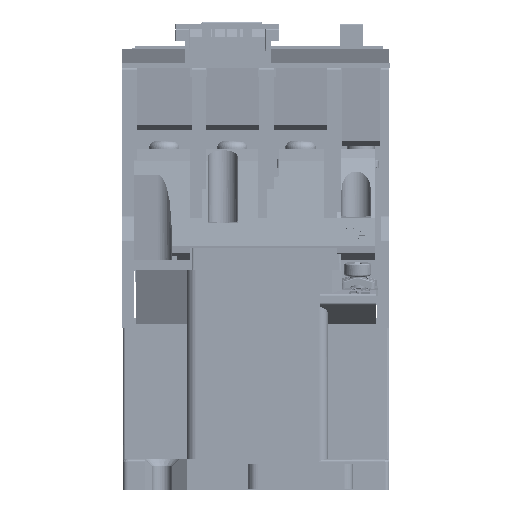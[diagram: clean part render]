
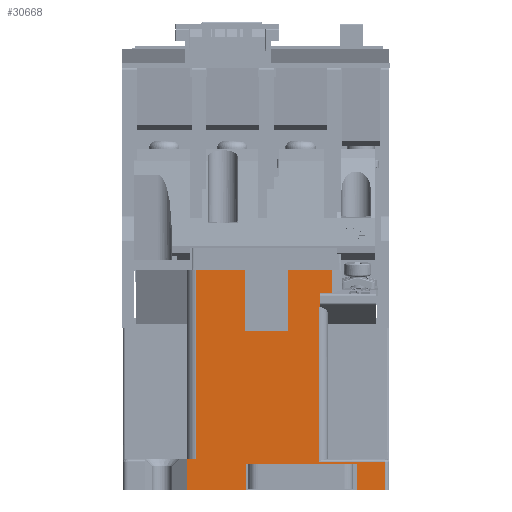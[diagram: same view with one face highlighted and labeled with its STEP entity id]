
A CAD part, front view. The second image highlights one B-rep face of the part: STEP entity #30668.
In plain terms, the highlighted planar face has unit normal (0, -1, 0).
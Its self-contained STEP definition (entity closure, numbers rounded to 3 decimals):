
#264=DIRECTION('',(1.,0.,0.));
#265=VECTOR('',#264,5.8);
#266=CARTESIAN_POINT('',(21.4,-38.95,0.));
#267=LINE('',#266,#265);
#322=DIRECTION('',(1.,0.,0.));
#323=VECTOR('',#322,12.5);
#324=CARTESIAN_POINT('',(-14.7,-38.95,0.));
#325=LINE('',#324,#323);
#4087=DIRECTION('',(-1.,0.,0.));
#4088=VECTOR('',#4087,14.);
#4089=CARTESIAN_POINT('',(27.2,-38.95,6.));
#4090=LINE('',#4089,#4088);
#4100=DIRECTION('',(0.,0.,-1.));
#4101=VECTOR('',#4100,40.1);
#4102=CARTESIAN_POINT('',(-12.7,-38.95,46.6));
#4103=LINE('',#4102,#4101);
#4104=DIRECTION('',(0.,0.,-1.));
#4105=VECTOR('',#4104,13.);
#4106=CARTESIAN_POINT('',(-2.3,-38.95,46.6));
#4107=LINE('',#4106,#4105);
#4108=DIRECTION('',(1.,0.,0.));
#4109=VECTOR('',#4108,9.);
#4110=CARTESIAN_POINT('',(-2.3,-38.95,33.6));
#4111=LINE('',#4110,#4109);
#4112=DIRECTION('',(0.,0.,-1.));
#4113=VECTOR('',#4112,13.);
#4114=CARTESIAN_POINT('',(6.7,-38.95,46.6));
#4115=LINE('',#4114,#4113);
#4116=DIRECTION('',(0.,0.,1.));
#4117=VECTOR('',#4116,4.933);
#4118=CARTESIAN_POINT('',(16.,-38.95,41.667));
#4119=LINE('',#4118,#4117);
#4120=DIRECTION('',(-1.,0.,0.));
#4121=VECTOR('',#4120,2.6);
#4122=CARTESIAN_POINT('',(16.,-38.95,41.667));
#4123=LINE('',#4122,#4121);
#4124=DIRECTION('',(0.,0.,1.));
#4125=VECTOR('',#4124,2.892);
#4126=CARTESIAN_POINT('',(13.4,-38.95,38.775));
#4127=LINE('',#4126,#4125);
#4128=DIRECTION('',(1.,0.,0.));
#4129=VECTOR('',#4128,0.2);
#4130=CARTESIAN_POINT('',(13.2,-38.95,38.775));
#4131=LINE('',#4130,#4129);
#4132=DIRECTION('',(0.,0.,-1.));
#4133=VECTOR('',#4132,32.775);
#4134=CARTESIAN_POINT('',(13.2,-38.95,38.775));
#4135=LINE('',#4134,#4133);
#4136=DIRECTION('',(0.,0.,-1.));
#4137=VECTOR('',#4136,6.);
#4138=CARTESIAN_POINT('',(27.2,-38.95,6.));
#4139=LINE('',#4138,#4137);
#4140=DIRECTION('',(0.,0.,1.));
#4141=VECTOR('',#4140,5.5);
#4142=CARTESIAN_POINT('',(21.4,-38.95,0.));
#4143=LINE('',#4142,#4141);
#4144=DIRECTION('',(-1.,0.,0.));
#4145=VECTOR('',#4144,23.6);
#4146=CARTESIAN_POINT('',(21.4,-38.95,5.5));
#4147=LINE('',#4146,#4145);
#4148=DIRECTION('',(0.,0.,1.));
#4149=VECTOR('',#4148,5.5);
#4150=CARTESIAN_POINT('',(-2.2,-38.95,0.));
#4151=LINE('',#4150,#4149);
#4152=DIRECTION('',(0.,0.,1.));
#4153=VECTOR('',#4152,6.5);
#4154=CARTESIAN_POINT('',(-14.7,-38.95,0.));
#4155=LINE('',#4154,#4153);
#4156=DIRECTION('',(-1.,0.,0.));
#4157=VECTOR('',#4156,2.);
#4158=CARTESIAN_POINT('',(-12.7,-38.95,6.5));
#4159=LINE('',#4158,#4157);
#4542=DIRECTION('',(1.,0.,0.));
#4543=VECTOR('',#4542,9.3);
#4544=CARTESIAN_POINT('',(6.7,-38.95,46.6));
#4545=LINE('',#4544,#4543);
#4558=DIRECTION('',(1.,0.,0.));
#4559=VECTOR('',#4558,10.4);
#4560=CARTESIAN_POINT('',(-12.7,-38.95,46.6));
#4561=LINE('',#4560,#4559);
#21265=CARTESIAN_POINT('',(21.4,-38.95,0.));
#21266=VERTEX_POINT('',#21265);
#21267=CARTESIAN_POINT('',(21.4,-38.95,5.5));
#21268=CARTESIAN_POINT('',(-2.2,-38.95,5.5));
#21269=VERTEX_POINT('',#21267);
#21270=VERTEX_POINT('',#21268);
#21271=CARTESIAN_POINT('',(-2.2,-38.95,0.));
#21272=VERTEX_POINT('',#21271);
#21273=CARTESIAN_POINT('',(-14.7,-38.95,0.));
#21274=VERTEX_POINT('',#21273);
#22257=CARTESIAN_POINT('',(16.,-38.95,46.6));
#22259=VERTEX_POINT('',#22257);
#22263=CARTESIAN_POINT('',(16.,-38.95,41.667));
#22264=VERTEX_POINT('',#22263);
#22265=CARTESIAN_POINT('',(13.4,-38.95,41.667));
#22266=VERTEX_POINT('',#22265);
#22271=CARTESIAN_POINT('',(-12.7,-38.95,46.6));
#22272=VERTEX_POINT('',#22271);
#22273=CARTESIAN_POINT('',(-12.7,-38.95,6.5));
#22274=VERTEX_POINT('',#22273);
#22275=CARTESIAN_POINT('',(-14.7,-38.95,6.5));
#22276=VERTEX_POINT('',#22275);
#22399=CARTESIAN_POINT('',(27.2,-38.95,0.));
#22401=VERTEX_POINT('',#22399);
#22402=CARTESIAN_POINT('',(27.2,-38.95,6.));
#22403=VERTEX_POINT('',#22402);
#22410=CARTESIAN_POINT('',(-2.3,-38.95,46.6));
#22411=CARTESIAN_POINT('',(-2.3,-38.95,33.6));
#22412=VERTEX_POINT('',#22410);
#22413=VERTEX_POINT('',#22411);
#22414=CARTESIAN_POINT('',(6.7,-38.95,33.6));
#22415=VERTEX_POINT('',#22414);
#22416=CARTESIAN_POINT('',(6.7,-38.95,46.6));
#22417=VERTEX_POINT('',#22416);
#22474=CARTESIAN_POINT('',(13.2,-38.95,38.775));
#22475=CARTESIAN_POINT('',(13.4,-38.95,38.775));
#22476=VERTEX_POINT('',#22474);
#22477=VERTEX_POINT('',#22475);
#24566=CARTESIAN_POINT('',(13.2,-38.95,6.));
#24567=VERTEX_POINT('',#24566);
#30624=CARTESIAN_POINT('',(-28.2,-38.95,0.));
#30625=DIRECTION('',(0.,-1.,0.));
#30626=DIRECTION('',(1.,0.,0.));
#30627=AXIS2_PLACEMENT_3D('',#30624,#30625,#30626);
#30628=PLANE('',#30627);
#30630=ORIENTED_EDGE('',*,*,#30629,.F.);
#30632=ORIENTED_EDGE('',*,*,#30631,.T.);
#30634=ORIENTED_EDGE('',*,*,#30633,.T.);
#30636=ORIENTED_EDGE('',*,*,#30635,.T.);
#30638=ORIENTED_EDGE('',*,*,#30637,.F.);
#30640=ORIENTED_EDGE('',*,*,#30639,.T.);
#30642=ORIENTED_EDGE('',*,*,#30641,.F.);
#30644=ORIENTED_EDGE('',*,*,#30643,.T.);
#30646=ORIENTED_EDGE('',*,*,#30645,.F.);
#30648=ORIENTED_EDGE('',*,*,#30647,.F.);
#30650=ORIENTED_EDGE('',*,*,#30649,.T.);
#30651=ORIENTED_EDGE('',*,*,#30614,.F.);
#30653=ORIENTED_EDGE('',*,*,#30652,.T.);
#30654=ORIENTED_EDGE('',*,*,#27986,.F.);
#30656=ORIENTED_EDGE('',*,*,#30655,.T.);
#30658=ORIENTED_EDGE('',*,*,#30657,.T.);
#30660=ORIENTED_EDGE('',*,*,#30659,.F.);
#30661=ORIENTED_EDGE('',*,*,#28024,.F.);
#30663=ORIENTED_EDGE('',*,*,#30662,.T.);
#30665=ORIENTED_EDGE('',*,*,#30664,.F.);
#30666=EDGE_LOOP('',(#30630,#30632,#30634,#30636,#30638,#30640,#30642,#30644,
#30646,#30648,#30650,#30651,#30653,#30654,#30656,#30658,#30660,#30661,#30663,
#30665));
#30667=FACE_OUTER_BOUND('',#30666,.F.);
#30668=ADVANCED_FACE('',(#30667),#30628,.T.);
#27986=EDGE_CURVE('',#21266,#22401,#267,.T.);
#28024=EDGE_CURVE('',#21274,#21272,#325,.T.);
#30614=EDGE_CURVE('',#22403,#24567,#4090,.T.);
#30629=EDGE_CURVE('',#22272,#22274,#4103,.T.);
#30631=EDGE_CURVE('',#22272,#22412,#4561,.T.);
#30633=EDGE_CURVE('',#22412,#22413,#4107,.T.);
#30635=EDGE_CURVE('',#22413,#22415,#4111,.T.);
#30637=EDGE_CURVE('',#22417,#22415,#4115,.T.);
#30639=EDGE_CURVE('',#22417,#22259,#4545,.T.);
#30641=EDGE_CURVE('',#22264,#22259,#4119,.T.);
#30643=EDGE_CURVE('',#22264,#22266,#4123,.T.);
#30645=EDGE_CURVE('',#22477,#22266,#4127,.T.);
#30647=EDGE_CURVE('',#22476,#22477,#4131,.T.);
#30649=EDGE_CURVE('',#22476,#24567,#4135,.T.);
#30652=EDGE_CURVE('',#22403,#22401,#4139,.T.);
#30655=EDGE_CURVE('',#21266,#21269,#4143,.T.);
#30657=EDGE_CURVE('',#21269,#21270,#4147,.T.);
#30659=EDGE_CURVE('',#21272,#21270,#4151,.T.);
#30662=EDGE_CURVE('',#21274,#22276,#4155,.T.);
#30664=EDGE_CURVE('',#22274,#22276,#4159,.T.);
